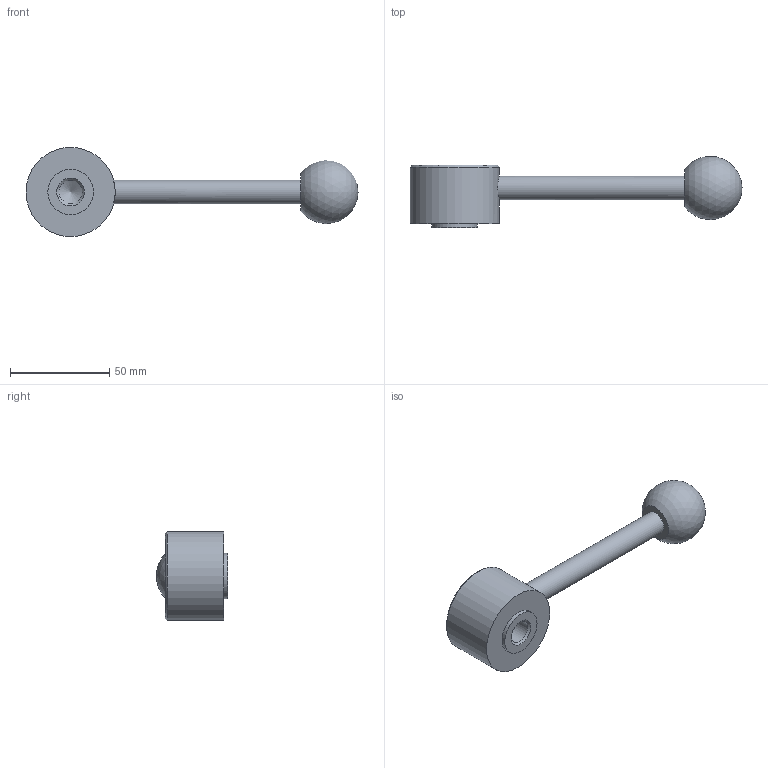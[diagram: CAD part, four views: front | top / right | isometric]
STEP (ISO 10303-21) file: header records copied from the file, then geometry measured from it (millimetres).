
FILE_DESCRIPTION( ( 'STEP AP203' ), '1' );
FILE_NAME( 'C:/Temp/Ganter_Step_05_03_2020/data/2_1/gn_125/gn_125_mb/gn_125_mb_d/Flat Adjustable Lever GN 125-45-M14-D.stp', '2020-03-05T11:00:40', ( 'License CC BY-ND 4.0' ), ( 'CADENAS' ), ' ', 'PARTsolutions', ' ' );
FILE_SCHEMA( ( 'CONFIG_CONTROL_DESIGN' ) );
Length unit declared in the file: millimetre
Products named in the file (1): _Flat Adjustable Lever GN 125-45-M14-D
Bounding box: 167.5 x 35.88 x 45 mm (x, y, z)
Volume: 72129.8 mm3; surface area: 14788.6 mm2
Topology: 1 solids, 1 shells, 14 faces, 25 edges, 16 vertices
Faces by surface type: cylinder 5, plane 5, cone 3, sphere 1
Full cylindrical faces by diameter (mm): 11.835 x1, 12 x1, 23 x1, 32 x1, 45 x1
Entity records: 406 total; most frequent: CARTESIAN_POINT 126, DIRECTION 54, AXIS2_PLACEMENT_3D 27, EDGE_LOOP 26, ORIENTED_EDGE 26, FACE_OUTER_BOUND 19, VERTEX_POINT 15, ADVANCED_FACE 14
